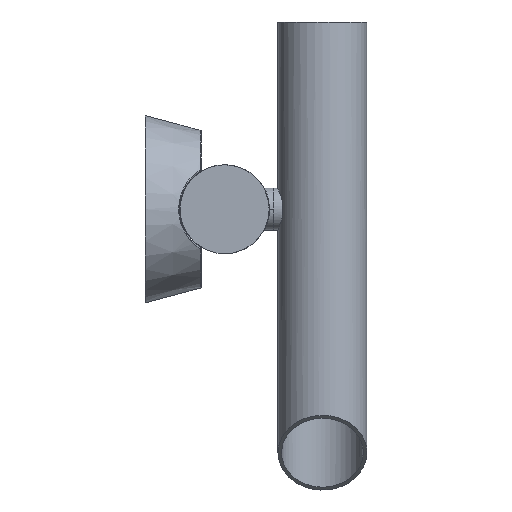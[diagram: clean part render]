
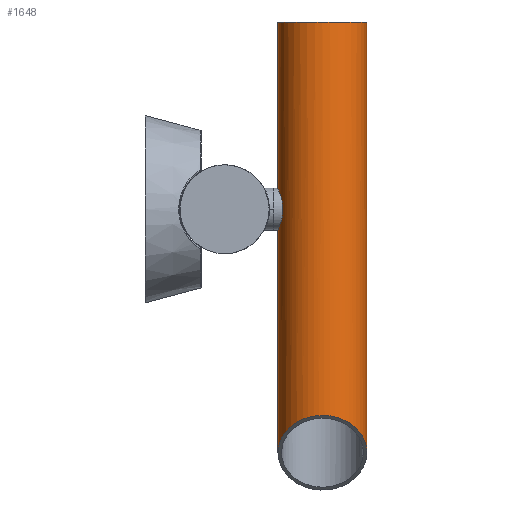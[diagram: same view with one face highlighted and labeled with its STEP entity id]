
A CAD part, front view. The second image highlights one B-rep face of the part: STEP entity #1648.
In plain terms, the highlighted cylindrical face has radius 19 mm (diameter 38 mm), a partial arc.
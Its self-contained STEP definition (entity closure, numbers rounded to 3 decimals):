
#164 = CYLINDRICAL_SURFACE ( 'NONE', #1747, 19. ) ;
#471 = VERTEX_POINT ( 'NONE', #1157 ) ;
#648 = CIRCLE ( 'NONE', #3917, 19. ) ;
#1000 = EDGE_CURVE ( 'NONE', #3544, #3657, #648, .T. ) ;
#1073 = CARTESIAN_POINT ( 'NONE',  ( 95.8, 0., -104.057 ) ) ;
#1101 = EDGE_LOOP ( 'NONE', ( #2679, #2754, #4030, #3672 ) ) ;
#1157 = CARTESIAN_POINT ( 'NONE',  ( 57.8, 0., -104.057 ) ) ;
#1312 = DIRECTION ( 'NONE',  ( 1., 0., 0. ) ) ;
#1648 = ADVANCED_FACE ( 'NONE', ( #1818 ), #164, .T. ) ;
#1688 = CARTESIAN_POINT ( 'NONE',  ( 57.8, 0., -104.057 ) ) ;
#1702 = VECTOR ( 'NONE', #2920, 1000. ) ;
#1747 = AXIS2_PLACEMENT_3D ( 'NONE', #3218, #3523, #1312 ) ;
#1783 = CARTESIAN_POINT ( 'NONE',  ( 76.8, 0., 80. ) ) ;
#1818 = FACE_OUTER_BOUND ( 'NONE', #1101, .T. ) ;
#1931 = CARTESIAN_POINT ( 'NONE',  ( 57.8, 0., 80. ) ) ;
#1957 = CARTESIAN_POINT ( 'NONE',  ( 57.8, 0., 230. ) ) ;
#2012 = CARTESIAN_POINT ( 'NONE',  ( 57.8, -38., -72.171 ) ) ;
#2057 = LINE ( 'NONE', #2705, #3653 ) ;
#2106 = DIRECTION ( 'NONE',  ( 1., 0., 0. ) ) ;
#2187 = VERTEX_POINT ( 'NONE', #2465 ) ;
#2465 = CARTESIAN_POINT ( 'NONE',  ( 95.8, 0., -104.057 ) ) ;
#2571 = LINE ( 'NONE', #1957, #1702 ) ;
#2679 = ORIENTED_EDGE ( 'NONE', *, *, #3578, .F. ) ;
#2705 = CARTESIAN_POINT ( 'NONE',  ( 95.8, 0., 230. ) ) ;
#2754 = ORIENTED_EDGE ( 'NONE', *, *, #2772, .T. ) ;
#2772 = EDGE_CURVE ( 'NONE', #471, #2187, #3255, .T. ) ;
#2920 = DIRECTION ( 'NONE',  ( 0., 0., 1. ) ) ;
#2977 = CARTESIAN_POINT ( 'NONE',  ( 95.8, -38., -72.171 ) ) ;
#3026 = DIRECTION ( 'NONE',  ( 0., 0., 1. ) ) ;
#3218 = CARTESIAN_POINT ( 'NONE',  ( 76.8, 0., 230. ) ) ;
#3255 =( BOUNDED_CURVE ( )  B_SPLINE_CURVE ( 3, ( #1688, #2012, #2977, #1073 ),
 .UNSPECIFIED., .F., .F. ) 
 B_SPLINE_CURVE_WITH_KNOTS ( ( 4, 4 ),
 ( 4.712, 7.854 ),
 .UNSPECIFIED. ) 
 CURVE ( )  GEOMETRIC_REPRESENTATION_ITEM ( )  RATIONAL_B_SPLINE_CURVE ( ( 1., 0.333, 0.333, 1. ) ) 
 REPRESENTATION_ITEM ( '' )  );
#3287 = CARTESIAN_POINT ( 'NONE',  ( 95.8, 0., 80. ) ) ;
#3523 = DIRECTION ( 'NONE',  ( 0., 0., 1. ) ) ;
#3544 = VERTEX_POINT ( 'NONE', #1931 ) ;
#3578 = EDGE_CURVE ( 'NONE', #471, #3544, #2571, .T. ) ;
#3653 = VECTOR ( 'NONE', #3026, 1000. ) ;
#3657 = VERTEX_POINT ( 'NONE', #3287 ) ;
#3672 = ORIENTED_EDGE ( 'NONE', *, *, #1000, .F. ) ;
#3711 = EDGE_CURVE ( 'NONE', #2187, #3657, #2057, .T. ) ;
#3917 = AXIS2_PLACEMENT_3D ( 'NONE', #1783, #4010, #2106 ) ;
#4010 = DIRECTION ( 'NONE',  ( 0., 0., 1. ) ) ;
#4030 = ORIENTED_EDGE ( 'NONE', *, *, #3711, .T. ) ;
